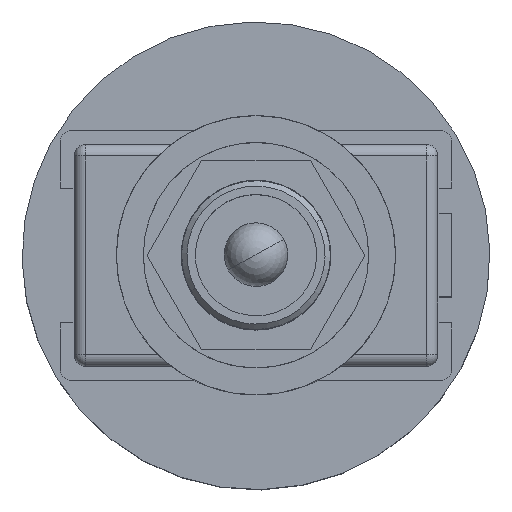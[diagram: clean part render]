
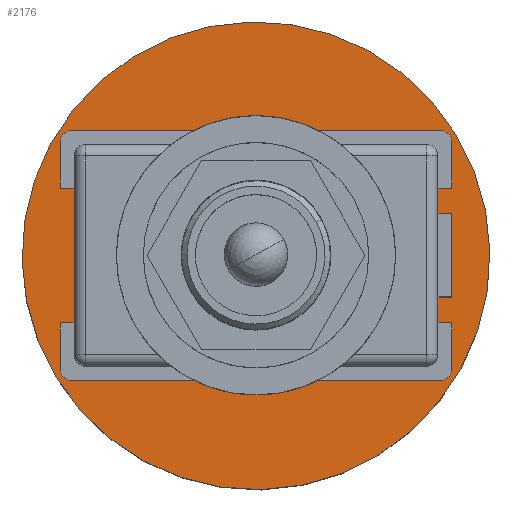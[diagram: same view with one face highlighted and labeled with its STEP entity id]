
A CAD part, top view. The second image highlights one B-rep face of the part: STEP entity #2176.
In plain terms, the highlighted planar face has unit normal (0, 0, 1) as drawn and (-1, 0, 0) by its records, which use the part's own axes.
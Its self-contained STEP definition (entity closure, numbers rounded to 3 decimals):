
#2128=AXIS2_PLACEMENT_3D('Circle Axis2P3D',#2126,#2127,$) ;
#2147=AXIS2_PLACEMENT_3D('Circle Axis2P3D',#2145,#2146,$) ;
#2170=AXIS2_PLACEMENT_3D('Plane Axis2P3D',#2167,#2168,#2169) ;
#2123=CARTESIAN_POINT('Vertex',(0.,7.613,4.159)) ;
#2126=CARTESIAN_POINT('Axis2P3D Location',(0.,0.,0.)) ;
#2130=CARTESIAN_POINT('Vertex',(0.,-7.613,-4.159)) ;
#2145=CARTESIAN_POINT('Axis2P3D Location',(0.,0.,0.)) ;
#2167=CARTESIAN_POINT('Axis2P3D Location',(0.,0.,0.)) ;
#2127=DIRECTION('Axis2P3D Direction',(1.,0.,0.)) ;
#2146=DIRECTION('Axis2P3D Direction',(1.,0.,0.)) ;
#2168=DIRECTION('Axis2P3D Direction',(1.,0.,0.)) ;
#2169=DIRECTION('Axis2P3D XDirection',(0.,1.,0.)) ;
#2173=ORIENTED_EDGE('',*,*,#2132,.F.) ;
#2174=ORIENTED_EDGE('',*,*,#2149,.F.) ;
#2176=ADVANCED_FACE('PartBody',(#2175),#2171,.F.) ;
#2129=CIRCLE('generated circle',#2128,8.675) ;
#2148=CIRCLE('generated circle',#2147,8.675) ;
#2132=EDGE_CURVE('',#2124,#2131,#2129,.T.) ;
#2149=EDGE_CURVE('',#2131,#2124,#2148,.T.) ;
#2172=EDGE_LOOP('',(#2173,#2174)) ;
#2175=FACE_OUTER_BOUND('',#2172,.T.) ;
#2171=PLANE('Plane',#2170) ;
#2124=VERTEX_POINT('',#2123) ;
#2131=VERTEX_POINT('',#2130) ;
